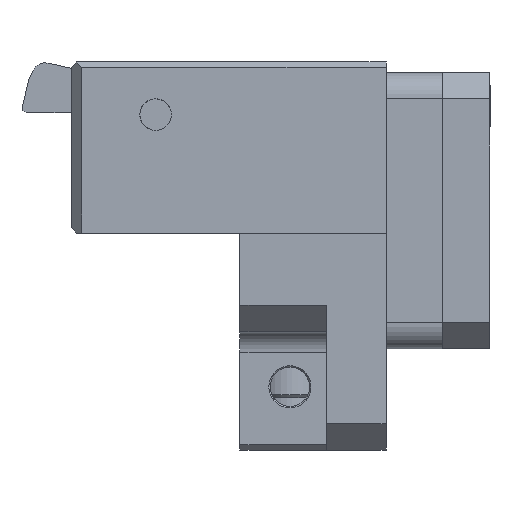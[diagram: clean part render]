
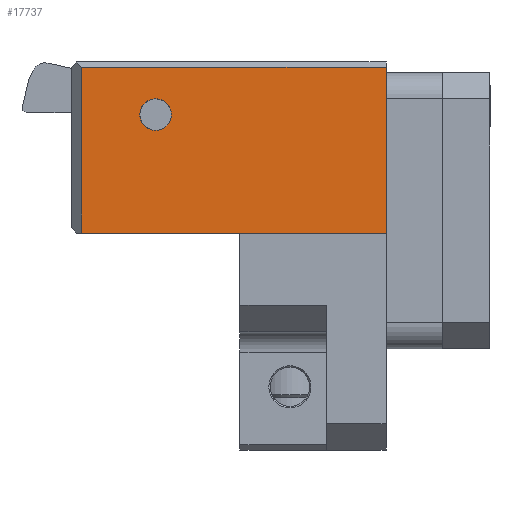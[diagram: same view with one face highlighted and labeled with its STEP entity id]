
A CAD part, left-side view. The second image highlights one B-rep face of the part: STEP entity #17737.
In plain terms, the highlighted planar face has unit normal (-1, 0, 0).
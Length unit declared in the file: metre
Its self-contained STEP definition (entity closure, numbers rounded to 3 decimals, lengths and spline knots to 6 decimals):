
#1322 = CARTESIAN_POINT ( 'NONE',  ( -0.079, 0.155, -0.002 ) ) ;
#1944 = VERTEX_POINT ( 'NONE', #10772 ) ;
#2014 = CARTESIAN_POINT ( 'NONE',  ( -0.079, 0.0395, -0.065 ) ) ;
#2398 = CARTESIAN_POINT ( 'NONE',  ( -0.079, 0.0395, -0.065 ) ) ;
#2497 = VERTEX_POINT ( 'NONE', #1322 ) ;
#2737 = LINE ( 'NONE', #20123, #21227 ) ;
#3170 = ORIENTED_EDGE ( 'NONE', *, *, #20512, .T. ) ;
#3461 = CIRCLE ( 'NONE', #14546, 0.006 ) ;
#4307 = ORIENTED_EDGE ( 'NONE', *, *, #18580, .T. ) ;
#4807 = VECTOR ( 'NONE', #19245, 1. ) ;
#5053 = VECTOR ( 'NONE', #18931, 1. ) ;
#5698 = CARTESIAN_POINT ( 'NONE',  ( -0.079, 0.159, -0.002 ) ) ;
#5778 = DIRECTION ( 'NONE',  ( 0., 1., 0. ) ) ;
#6636 = EDGE_CURVE ( 'NONE', #16463, #10079, #19091, .T. ) ;
#7032 = CARTESIAN_POINT ( 'NONE',  ( -0.079, 0.127, -0.02 ) ) ;
#7688 = AXIS2_PLACEMENT_3D ( 'NONE', #8015, #21567, #11462 ) ;
#8015 = CARTESIAN_POINT ( 'NONE',  ( -0.079, 0.0395, -0.065 ) ) ;
#8714 = DIRECTION ( 'NONE',  ( 0., 0., -1. ) ) ;
#9993 = DIRECTION ( 'NONE',  ( 0., 0., -1. ) ) ;
#10079 = VERTEX_POINT ( 'NONE', #13440 ) ;
#10282 = CARTESIAN_POINT ( 'NONE',  ( -0.079, 0.155, -0.065 ) ) ;
#10772 = CARTESIAN_POINT ( 'NONE',  ( -0.079, 0.127, -0.026 ) ) ;
#11462 = DIRECTION ( 'NONE',  ( 0., 0., 1. ) ) ;
#11722 = LINE ( 'NONE', #2398, #4807 ) ;
#12397 = VERTEX_POINT ( 'NONE', #10282 ) ;
#13364 = EDGE_LOOP ( 'NONE', ( #16112, #4307, #13977, #17632 ) ) ;
#13440 = CARTESIAN_POINT ( 'NONE',  ( -0.079, 0.0395, -0.002 ) ) ;
#13977 = ORIENTED_EDGE ( 'NONE', *, *, #14024, .T. ) ;
#14024 = EDGE_CURVE ( 'NONE', #12397, #16463, #11722, .T. ) ;
#14546 = AXIS2_PLACEMENT_3D ( 'NONE', #7032, #18861, #8714 ) ;
#15618 = VECTOR ( 'NONE', #5778, 1. ) ;
#16112 = ORIENTED_EDGE ( 'NONE', *, *, #20274, .T. ) ;
#16463 = VERTEX_POINT ( 'NONE', #2014 ) ;
#17632 = ORIENTED_EDGE ( 'NONE', *, *, #6636, .T. ) ;
#17718 = EDGE_LOOP ( 'NONE', ( #3170 ) ) ;
#17737 = ADVANCED_FACE ( 'NONE', ( #19416, #18351 ), #18165, .T. ) ;
#18165 = PLANE ( 'NONE',  #7688 ) ;
#18351 = FACE_OUTER_BOUND ( 'NONE', #13364, .T. ) ;
#18580 = EDGE_CURVE ( 'NONE', #2497, #12397, #2737, .T. ) ;
#18861 = DIRECTION ( 'NONE',  ( 1., 0., 0. ) ) ;
#18931 = DIRECTION ( 'NONE',  ( 0., 0., 1. ) ) ;
#19091 = LINE ( 'NONE', #20697, #5053 ) ;
#19245 = DIRECTION ( 'NONE',  ( 0., -1., 0. ) ) ;
#19416 = FACE_BOUND ( 'NONE', #17718, .T. ) ;
#20123 = CARTESIAN_POINT ( 'NONE',  ( -0.079, 0.155, -0.065 ) ) ;
#20274 = EDGE_CURVE ( 'NONE', #10079, #2497, #20657, .T. ) ;
#20512 = EDGE_CURVE ( 'NONE', #1944, #1944, #3461, .T. ) ;
#20657 = LINE ( 'NONE', #5698, #15618 ) ;
#20697 = CARTESIAN_POINT ( 'NONE',  ( -0.079, 0.0395, -0.065 ) ) ;
#21227 = VECTOR ( 'NONE', #9993, 1. ) ;
#21567 = DIRECTION ( 'NONE',  ( -1., 0., 0. ) ) ;
